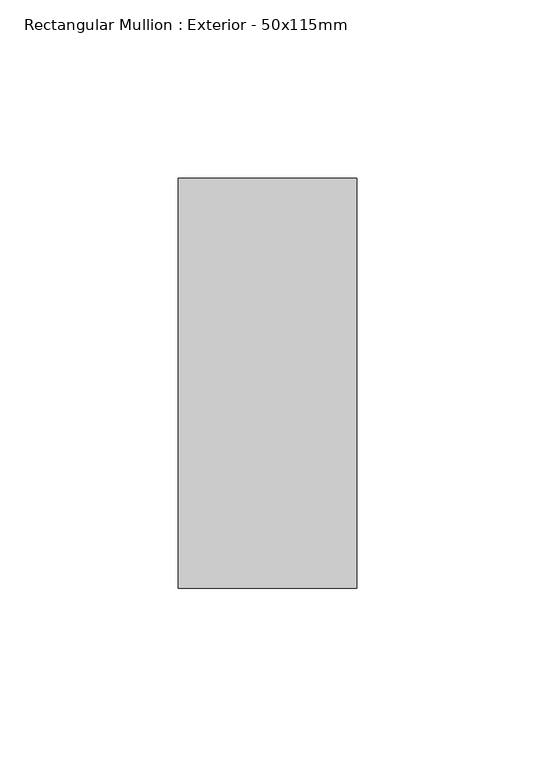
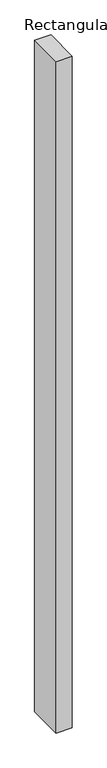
"""IFC4 building model written with IfcOpenShell, lengths in millimetres: member geometry, Rectangular Mullion : Exterior - 50x115mm."""

from ifc_helpers import new_model, si_unit, frame, origin, place, context, project, spatial, polyline, outline, extrude, source, transform, mapped, element, save


def rectangular_mullion_exterior_50x115mm_2cea3e43(model_context):
    return source(origin(), model_context, "Body", "SweptSolid", [
        extrude(outline(polyline([(0.0, 115.0), (0.0, 0.0), (-50.0, 0.0), (-50.0, 115.0), (0.0, 115.0)])), frame((0.0, 0.0, -2200.0), z_axis=(0.0, 0.0, 1.0), x_axis=(1.0, 0.0, 0.0)), (0.0, 0.0, 1.0), 2200.0),
    ])


if __name__ == "__main__":
    model = new_model("IFC4")
    model_context = context("Model", 3, world=origin())
    ifc_project = project(units=[si_unit("LENGTHUNIT", "METRE", prefix="MILLI")], contexts=[model_context])
    site = spatial("IfcSite", under=ifc_project)
    building = spatial("IfcBuilding", under=site)
    placement = place(None, origin())
    rectangular_mullion_exterior_50x115mm_shape = rectangular_mullion_exterior_50x115mm_2cea3e43(model_context)
    element("IfcMember", 1, ObjectType="Rectangular Mullion : Exterior - 50x115mm", at=placement, inside=building, context=model_context, shape_type="MappedRepresentation", body=[
        mapped(rectangular_mullion_exterior_50x115mm_shape, transform((0.0, 0.0, 0.0), x_axis=(1.0, 0.0, 0.0), y_axis=(0.0, 1.0, 0.0), z_axis=(0.0, 0.0, 1.0))),
    ])
    save(model, "model.ifc")
